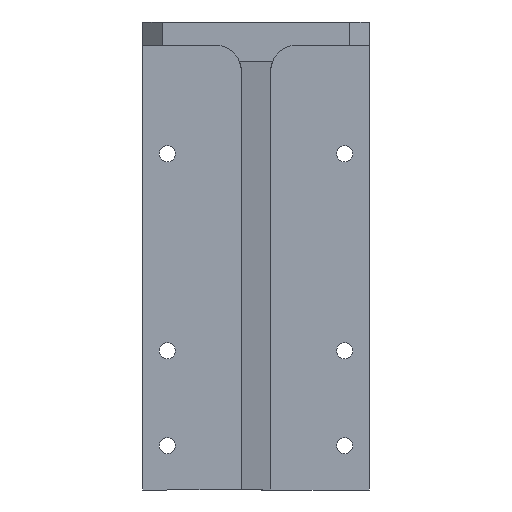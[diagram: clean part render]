
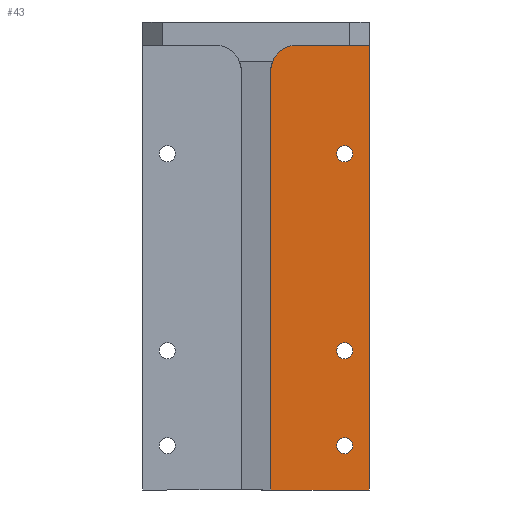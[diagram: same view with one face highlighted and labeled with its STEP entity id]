
A CAD part, left-side view. The second image highlights one B-rep face of the part: STEP entity #43.
In plain terms, the highlighted planar face has unit normal (-1, 0, 0).
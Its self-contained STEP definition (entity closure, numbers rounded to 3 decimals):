
#43 = ADVANCED_FACE ( 'NONE', ( #249, #242, #252, #240 ), #3362, .F. ) ;
#61 = DIRECTION ( 'NONE',  ( 0., 0., 1. ) ) ;
#74 = AXIS2_PLACEMENT_3D ( 'NONE', #418, #2431, #687 ) ;
#150 = DIRECTION ( 'NONE',  ( 1., 0., 0. ) ) ;
#155 = CARTESIAN_POINT ( 'NONE',  ( 16., 5., -86. ) ) ;
#165 = CARTESIAN_POINT ( 'NONE',  ( 16., 20., -4.7 ) ) ;
#177 = DIRECTION ( 'NONE',  ( 0., 0., -1. ) ) ;
#240 = FACE_OUTER_BOUND ( 'NONE', #3152, .T. ) ;
#242 = FACE_BOUND ( 'NONE', #3007, .T. ) ;
#249 = FACE_BOUND ( 'NONE', #1348, .T. ) ;
#252 = FACE_BOUND ( 'NONE', #1042, .T. ) ;
#253 = DIRECTION ( 'NONE',  ( 1., 0., 0. ) ) ;
#305 = ORIENTED_EDGE ( 'NONE', *, *, #2344, .F. ) ;
#340 = CARTESIAN_POINT ( 'NONE',  ( 16., 0., -95. ) ) ;
#402 = DIRECTION ( 'NONE',  ( 1., 0., 0. ) ) ;
#414 = CARTESIAN_POINT ( 'NONE',  ( 16., 14.8, -4.7 ) ) ;
#418 = CARTESIAN_POINT ( 'NONE',  ( 16., 5., -26.75 ) ) ;
#425 = DIRECTION ( 'NONE',  ( 0., 0., -1. ) ) ;
#456 = DIRECTION ( 'NONE',  ( 0., -1., 0. ) ) ;
#506 = CARTESIAN_POINT ( 'NONE',  ( 16., 5., -25.1 ) ) ;
#687 = DIRECTION ( 'NONE',  ( 0., 0., -1. ) ) ;
#700 = ORIENTED_EDGE ( 'NONE', *, *, #1332, .T. ) ;
#860 = AXIS2_PLACEMENT_3D ( 'NONE', #3111, #253, #2234 ) ;
#898 = ORIENTED_EDGE ( 'NONE', *, *, #2306, .T. ) ;
#949 = DIRECTION ( 'NONE',  ( 0., -1., 0. ) ) ;
#977 = EDGE_CURVE ( 'NONE', #2085, #1845, #3037, .T. ) ;
#995 = CARTESIAN_POINT ( 'NONE',  ( 16., 5., -28.4 ) ) ;
#1042 = EDGE_LOOP ( 'NONE', ( #898, #3569 ) ) ;
#1057 = ORIENTED_EDGE ( 'NONE', *, *, #2338, .T. ) ;
#1203 = CARTESIAN_POINT ( 'NONE',  ( 16., 5., -26.75 ) ) ;
#1225 = DIRECTION ( 'NONE',  ( 0., 0., 1. ) ) ;
#1231 = VERTEX_POINT ( 'NONE', #2959 ) ;
#1238 = VERTEX_POINT ( 'NONE', #1727 ) ;
#1320 = ORIENTED_EDGE ( 'NONE', *, *, #977, .T. ) ;
#1332 = EDGE_CURVE ( 'NONE', #2995, #3295, #2718, .T. ) ;
#1348 = EDGE_LOOP ( 'NONE', ( #1611, #700 ) ) ;
#1449 = EDGE_CURVE ( 'NONE', #2452, #2404, #2564, .T. ) ;
#1475 = CARTESIAN_POINT ( 'NONE',  ( 16., 5., -66.75 ) ) ;
#1491 = DIRECTION ( 'NONE',  ( 0., 0., -1. ) ) ;
#1513 = CARTESIAN_POINT ( 'NONE',  ( 16., 20., -95. ) ) ;
#1565 = LINE ( 'NONE', #3285, #1770 ) ;
#1581 = VECTOR ( 'NONE', #1225, 1000. ) ;
#1587 = LINE ( 'NONE', #1513, #1581 ) ;
#1595 = VECTOR ( 'NONE', #949, 1000. ) ;
#1603 = LINE ( 'NONE', #165, #1595 ) ;
#1611 = ORIENTED_EDGE ( 'NONE', *, *, #2293, .T. ) ;
#1615 = CIRCLE ( 'NONE', #3483, 5.2 ) ;
#1640 = CIRCLE ( 'NONE', #3521, 1.65 ) ;
#1642 = CIRCLE ( 'NONE', #3512, 1.65 ) ;
#1661 = CIRCLE ( 'NONE', #3525, 1.65 ) ;
#1678 = CARTESIAN_POINT ( 'NONE',  ( 16., 20., -9.9 ) ) ;
#1727 = CARTESIAN_POINT ( 'NONE',  ( 16., 5., -84.35 ) ) ;
#1766 = CIRCLE ( 'NONE', #3568, 1.65 ) ;
#1770 = VECTOR ( 'NONE', #456, 1000. ) ;
#1776 = DIRECTION ( 'NONE',  ( 0., 0., -1. ) ) ;
#1782 = CARTESIAN_POINT ( 'NONE',  ( 16., 5., -66.75 ) ) ;
#1812 = DIRECTION ( 'NONE',  ( -1., 0., 0. ) ) ;
#1838 = ORIENTED_EDGE ( 'NONE', *, *, #1449, .T. ) ;
#1845 = VERTEX_POINT ( 'NONE', #2460 ) ;
#2079 = CARTESIAN_POINT ( 'NONE',  ( 16., 5., -86. ) ) ;
#2085 = VERTEX_POINT ( 'NONE', #340 ) ;
#2101 = DIRECTION ( 'NONE',  ( 0., 0., -1. ) ) ;
#2109 = DIRECTION ( 'NONE',  ( 1., 0., 0. ) ) ;
#2149 = ORIENTED_EDGE ( 'NONE', *, *, #2331, .F. ) ;
#2196 = EDGE_CURVE ( 'NONE', #1238, #1231, #1766, .T. ) ;
#2234 = DIRECTION ( 'NONE',  ( 0., 0., -1. ) ) ;
#2293 = EDGE_CURVE ( 'NONE', #3295, #2995, #1661, .T. ) ;
#2296 = VERTEX_POINT ( 'NONE', #414 ) ;
#2300 = EDGE_CURVE ( 'NONE', #2404, #2452, #1642, .T. ) ;
#2306 = EDGE_CURVE ( 'NONE', #1231, #1238, #1640, .T. ) ;
#2331 = EDGE_CURVE ( 'NONE', #2296, #1845, #1603, .T. ) ;
#2338 = EDGE_CURVE ( 'NONE', #2296, #3050, #1615, .T. ) ;
#2344 = EDGE_CURVE ( 'NONE', #3549, #3050, #1587, .T. ) ;
#2353 = EDGE_CURVE ( 'NONE', #3549, #2085, #1565, .T. ) ;
#2404 = VERTEX_POINT ( 'NONE', #995 ) ;
#2410 = DIRECTION ( 'NONE',  ( 0., 0., -1. ) ) ;
#2431 = DIRECTION ( 'NONE',  ( 1., 0., 0. ) ) ;
#2452 = VERTEX_POINT ( 'NONE', #506 ) ;
#2460 = CARTESIAN_POINT ( 'NONE',  ( 16., 0., -4.7 ) ) ;
#2477 = ORIENTED_EDGE ( 'NONE', *, *, #2353, .T. ) ;
#2564 = CIRCLE ( 'NONE', #74, 1.65 ) ;
#2718 = CIRCLE ( 'NONE', #3149, 1.65 ) ;
#2900 = CARTESIAN_POINT ( 'NONE',  ( 16., 5., -65.1 ) ) ;
#2959 = CARTESIAN_POINT ( 'NONE',  ( 16., 5., -87.65 ) ) ;
#2995 = VERTEX_POINT ( 'NONE', #2900 ) ;
#3007 = EDGE_LOOP ( 'NONE', ( #3025, #1838 ) ) ;
#3020 = VECTOR ( 'NONE', #61, 1000. ) ;
#3025 = ORIENTED_EDGE ( 'NONE', *, *, #2300, .T. ) ;
#3037 = LINE ( 'NONE', #3447, #3020 ) ;
#3050 = VERTEX_POINT ( 'NONE', #1678 ) ;
#3111 = CARTESIAN_POINT ( 'NONE',  ( 16., 20., -95. ) ) ;
#3136 = CARTESIAN_POINT ( 'NONE',  ( 16., 5., -68.4 ) ) ;
#3149 = AXIS2_PLACEMENT_3D ( 'NONE', #1782, #150, #2101 ) ;
#3152 = EDGE_LOOP ( 'NONE', ( #2149, #1057, #305, #2477, #1320 ) ) ;
#3167 = CARTESIAN_POINT ( 'NONE',  ( 16., 20., -95. ) ) ;
#3269 = DIRECTION ( 'NONE',  ( 1., 0., 0. ) ) ;
#3285 = CARTESIAN_POINT ( 'NONE',  ( 16., 20., -95. ) ) ;
#3295 = VERTEX_POINT ( 'NONE', #3136 ) ;
#3362 = PLANE ( 'NONE',  #860 ) ;
#3447 = CARTESIAN_POINT ( 'NONE',  ( 16., 0., -95. ) ) ;
#3483 = AXIS2_PLACEMENT_3D ( 'NONE', #3543, #1812, #177 ) ;
#3512 = AXIS2_PLACEMENT_3D ( 'NONE', #1203, #3269, #1491 ) ;
#3515 = DIRECTION ( 'NONE',  ( 1., 0., 0. ) ) ;
#3521 = AXIS2_PLACEMENT_3D ( 'NONE', #155, #2109, #425 ) ;
#3525 = AXIS2_PLACEMENT_3D ( 'NONE', #1475, #3515, #1776 ) ;
#3543 = CARTESIAN_POINT ( 'NONE',  ( 16., 14.8, -9.9 ) ) ;
#3549 = VERTEX_POINT ( 'NONE', #3167 ) ;
#3568 = AXIS2_PLACEMENT_3D ( 'NONE', #2079, #402, #2410 ) ;
#3569 = ORIENTED_EDGE ( 'NONE', *, *, #2196, .T. ) ;
